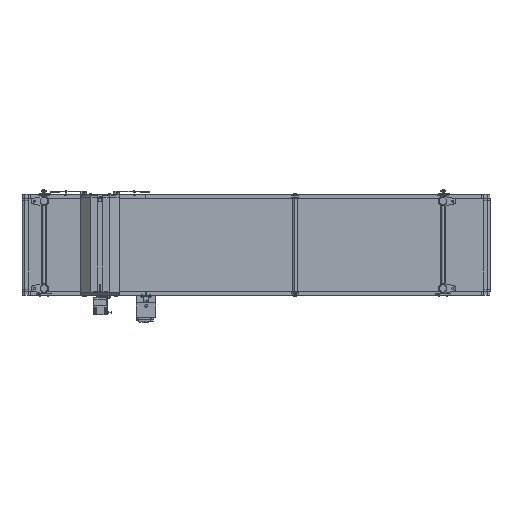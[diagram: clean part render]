
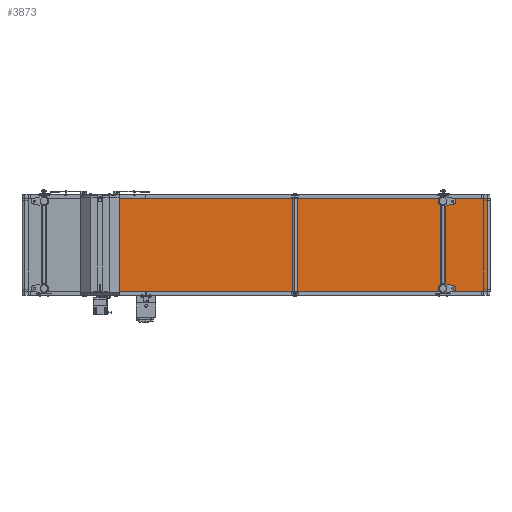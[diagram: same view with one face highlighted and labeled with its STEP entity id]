
A CAD part, front view. The second image highlights one B-rep face of the part: STEP entity #3873.
In plain terms, the highlighted planar face has unit normal (0.005, -1, 0).
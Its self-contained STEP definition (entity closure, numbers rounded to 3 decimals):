
#3873=ADVANCED_FACE('',(#9808),#9807,.T.);
#9807=PLANE('',#39050);
#9808=FACE_OUTER_BOUND('',#39051,.T.);
#39047=CARTESIAN_POINT('',(553.726,-46.311,-310.));
#39048=DIRECTION('',(0.005,-1.,0.));
#39049=DIRECTION('',(1.,0.005,0.));
#39050=AXIS2_PLACEMENT_3D('',#39047,#39048,#39049);
#39051=EDGE_LOOP('',(#59984,#59985,#59986,#59987));
#59984=ORIENTED_EDGE('',*,*,#73667,.F.);
#59985=ORIENTED_EDGE('',*,*,#73666,.F.);
#59986=ORIENTED_EDGE('',*,*,#73668,.T.);
#59987=ORIENTED_EDGE('',*,*,#73669,.T.);
#73666=EDGE_CURVE('',#85828,#85821,#85835,.T.);
#73667=EDGE_CURVE('',#85821,#85841,#85842,.T.);
#73668=EDGE_CURVE('',#85828,#85848,#85849,.T.);
#73669=EDGE_CURVE('',#85848,#85841,#85855,.T.);
#85821=VERTEX_POINT('',#131792);
#85828=VERTEX_POINT('',#131797);
#85835=LINE('',#131802,#131803);
#85841=VERTEX_POINT('',#131805);
#85842=LINE('',#131806,#131807);
#85848=VERTEX_POINT('',#131809);
#85849=LINE('',#131810,#131811);
#85855=LINE('',#131813,#131814);
#131792=CARTESIAN_POINT('',(2983.091,-34.,-300.));
#131797=CARTESIAN_POINT('',(2983.091,-34.,300.));
#131802=CARTESIAN_POINT('',(2983.091,-34.,300.));
#131803=VECTOR('',#131804,600.);
#131804=DIRECTION('',(0.,0.,-1.));
#131805=CARTESIAN_POINT('',(563.726,-46.26,-300.));
#131806=CARTESIAN_POINT('',(2983.091,-34.,-300.));
#131807=VECTOR('',#131808,2419.396);
#131808=DIRECTION('',(-1.,-0.005,0.));
#131809=CARTESIAN_POINT('',(563.726,-46.26,300.));
#131810=CARTESIAN_POINT('',(2983.091,-34.,300.));
#131811=VECTOR('',#131812,2419.396);
#131812=DIRECTION('',(-1.,-0.005,0.));
#131813=CARTESIAN_POINT('',(563.726,-46.26,300.));
#131814=VECTOR('',#131815,600.);
#131815=DIRECTION('',(0.,0.,-1.));
